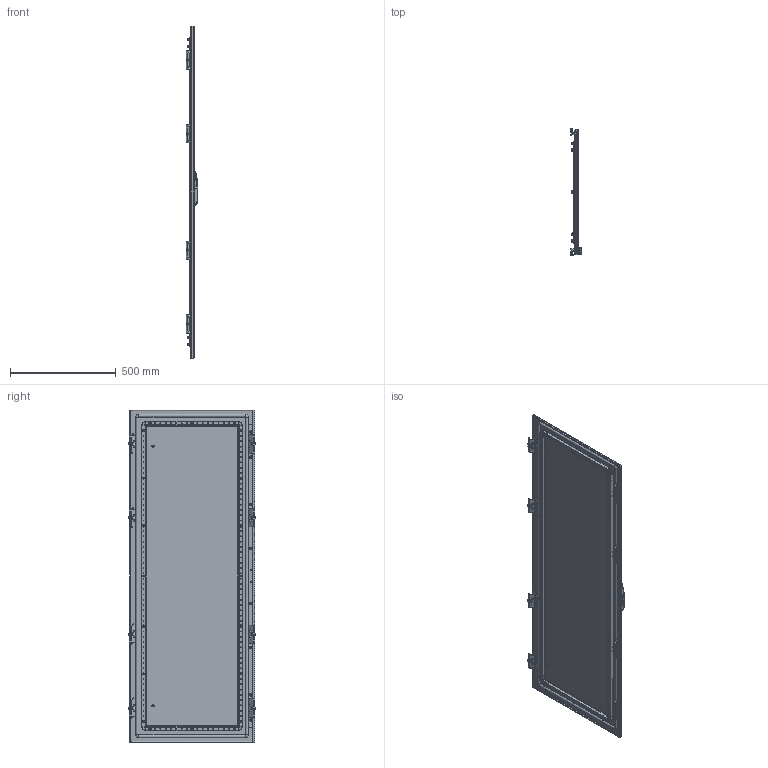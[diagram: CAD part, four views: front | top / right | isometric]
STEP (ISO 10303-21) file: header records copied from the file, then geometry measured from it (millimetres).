
FILE_DESCRIPTION(('STEP AP203'), '1');
FILE_NAME('3410 ﾄ粢 ﾑﾁ', '', ('UNSPECIFIED'), ('UNSPECIFIED'), 'C3D Converter', 'C3D Toolkit', '');
FILE_SCHEMA(('CONFIG_CONTROL_DESIGN'));
Length unit declared in the file: millimetre
Products named in the file (29): 3410.160.60 СБ; 3420; 3421; 3422.01; 3412; 3411; 2952; 3009.05; 3009.05.01; 3622.01; 3009.08; 3009.08.01
Assembly tree (115 placements, depth 4):
  3410.160.60 СБ
    3420
      3421
      3422.01  x4
      (unnamed)  x14
      (unnamed)  x8
      (unnamed)  x2
    3412  x2
    3411  x2
    (unnamed)  x4
    (unnamed)  x14
    (unnamed)  x22
    (unnamed)  x8
    2952
      (unnamed)
        (unnamed)
        (unnamed)
        (unnamed)
        (unnamed)
        (unnamed)
    (unnamed)  x2
    3009.05  x4
      3009.05.01
      (unnamed)
      (unnamed)
    3622.01  x4
    (unnamed)  x4
    3009.08  x4
      3009.08.01
      (unnamed)
      (unnamed)
Bounding box: 55 x 597.03 x 1571 mm (x, y, z)
Volume: 2481206.3 mm3; surface area: 2941722.2 mm2
Topology: 130 solids, 130 shells, 4297 faces, 10813 edges, 6950 vertices
Faces by surface type: plane 2555, cylinder 1017, cone 482, bspline 151, torus 81, sphere 11
Full cylindrical faces by diameter (mm): 0.5 x22, 4.134 x8, 4.3 x2, 4.5 x128, 4.917 x22, 5 x24, 5.2 x1, 5.8 x8, 6 x36, 6.1 x4, 6.6 x22, 6.75 x22, 7 x8, 7.3 x22, 7.5 x22, 8 x20, 8.3 x16, 8.5 x1, 9.2 x18, 10 x23, 10.5 x4, 11.5 x4, 12 x26, 13 x1, 15 x1, 20.7 x1, 21 x1
Entity records: 74119 total; most frequent: CARTESIAN_POINT 31134, ORIENTED_EDGE 6856, DIRECTION 6418, EDGE_CURVE 3428, AXIS2_PLACEMENT_3D 2287, VERTEX_POINT 2259, EDGE_LOOP 1869, LINE 1844
